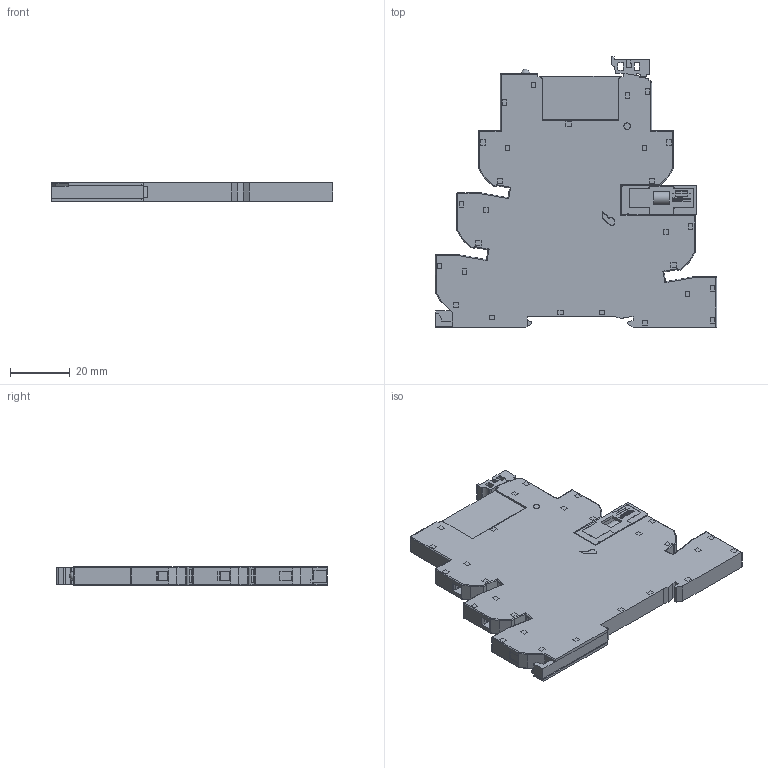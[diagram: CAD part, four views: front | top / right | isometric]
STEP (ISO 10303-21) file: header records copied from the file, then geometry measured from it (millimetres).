
FILE_DESCRIPTION(('STEP AP214'),'2;1');
FILE_NAME('3931=3451+9363+09363.stp','2010-10-02T09:58:50',(''),(''),'2007.1.106','THINKDESIGN','');
FILE_SCHEMA(('AUTOMOTIVE_DESIGN'));
Products named in the file (1): None
Bounding box: 94.25 x 90.7 x 6.2 mm (x, y, z)
Surface area: 19635.3 mm2 (no closed solid volume)
Topology: 0 solids, 0 shells, 995 faces, 6230 edges, 6213 vertices
Faces by surface type: plane 733, cylinder 185, bspline 77
Full cylindrical faces by diameter (mm): 1.5 x5, 2.2 x2, 2.798 x5, 3.9 x5, 4.299 x5, 4.4 x1
Entity records: 65584 total; most frequent: CARTESIAN_POINT 21793, DIRECTION 7673, COMPOSITE_CURVE_SEGMENT 6215, TRIMMED_CURVE 5517, VECTOR 5201, LINE 5201, AXIS2_PLACEMENT_3D 1236, OUTER_BOUNDARY_CURVE 995
